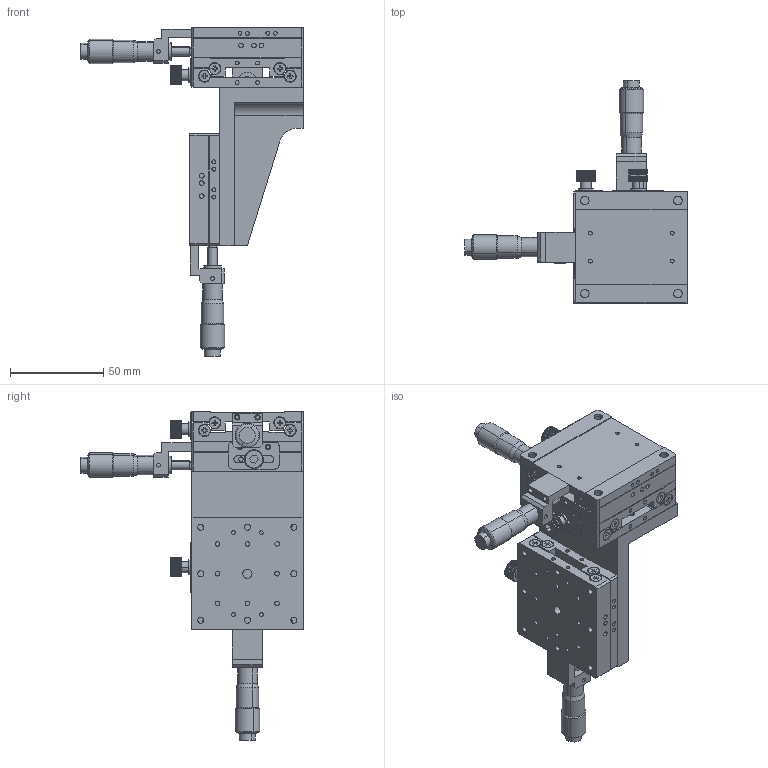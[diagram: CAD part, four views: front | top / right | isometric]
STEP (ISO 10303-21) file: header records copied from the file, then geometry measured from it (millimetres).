
FILE_DESCRIPTION (( 'STEP AP203' ), '1' );
FILE_NAME ('JXYZ-60C-16H.STEP', '2023-03-15T10:35:27', ( '微软用户' ), ( '微软中国' ), 'SwSTEP 2.0', 'SolidWorks 2018', '' );
FILE_SCHEMA (( 'CONFIG_CONTROL_DESIGN' ));
Length unit declared in the file: millimetre
Products named in the file (14): FC-NB-10 内六角滚花螺丝 （直纹）; JX-60-02 狟裔; JXYZ-60C-16H; JZ-60C（MIR）-16H; JX-60C-16H; JX-60蹟佪; JX-60-01 奻裔; JX-60-02 L啣; JX-40-05 癹弇え; JXY-60C-16H; JX-40-06 C千分尺固定块; JCX-80(H18)菜え; JX-60C（MIR）-16H; JALB-72-R(0-13埴芛ロ煦喜)
Assembly tree (50 placements, depth 4):
  JXYZ-60C-16H
    JXY-60C-16H
      JX-60C-16H
        JX-60-02 狟裔
        JX-60-01 奻裔
        JX-60蹟佪  x8
        JX-40-06 C千分尺固定块
        JALB-72-R(0-13埴芛ロ煦喜)
        FC-NB-10 内六角滚花螺丝 （直纹）
        JCX-80(H18)菜え
        JX-40-05 癹弇え
      JX-60C（MIR）-16H
        JX-60-02 狟裔
        JX-60-01 奻裔
        JX-60蹟佪  x8
        JX-40-06 C千分尺固定块
        JALB-72-R(0-13埴芛ロ煦喜)
        JX-40-05 癹弇え
        JCX-80(H18)菜え
        FC-NB-10 内六角滚花螺丝 （直纹）
    JZ-60C（MIR）-16H
      JX-60-02 狟裔
      JX-60-01 奻裔
      JX-60蹟佪  x8
      JX-40-06 C千分尺固定块
      JALB-72-R(0-13埴芛ロ煦喜)
      JX-40-05 癹弇え
      JCX-80(H18)菜え
      FC-NB-10 内六角滚花螺丝 （直纹）
      JX-60-02 L啣
Bounding box: 119.5 x 119.5 x 176.5 mm (x, y, z)
Volume: 235591.1 mm3; surface area: 108350.7 mm2
Topology: 46 solids, 46 shells, 2079 faces, 5322 edges, 3503 vertices
Faces by surface type: cylinder 1198, plane 803, cone 66, sphere 12
Entity records: 21050 total; most frequent: DIRECTION 3540, CARTESIAN_POINT 3349, ORIENTED_EDGE 2984, EDGE_CURVE 1492, AXIS2_PLACEMENT_3D 1424, VERTEX_POINT 985, CIRCLE 792, EDGE_LOOP 713
